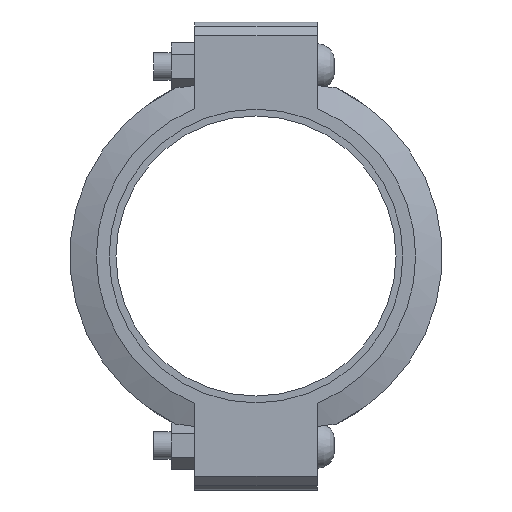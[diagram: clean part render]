
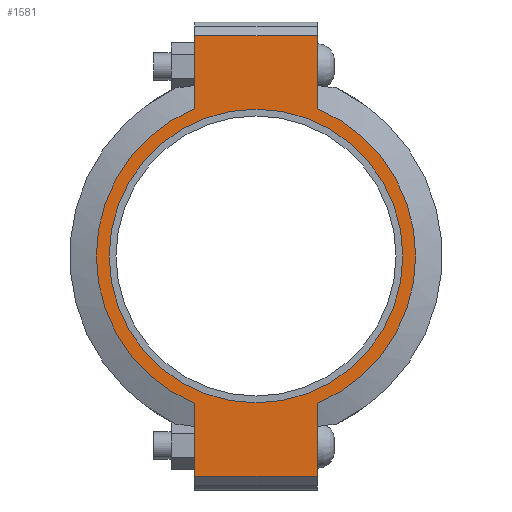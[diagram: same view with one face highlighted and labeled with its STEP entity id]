
A CAD part, left-side view. The second image highlights one B-rep face of the part: STEP entity #1581.
In plain terms, the highlighted planar face has unit normal (-1, 0, 0) as drawn and (0, 0, 1) by its records, which use the part's own axes.
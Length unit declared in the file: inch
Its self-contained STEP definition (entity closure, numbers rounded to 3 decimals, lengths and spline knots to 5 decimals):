
#152=LINE('',#2722,#241);
#163=LINE('',#2773,#252);
#169=LINE('',#2799,#258);
#171=LINE('',#2802,#260);
#172=LINE('',#2807,#261);
#173=LINE('',#2808,#262);
#241=VECTOR('',#2222,0.3937);
#252=VECTOR('',#2253,0.3937);
#258=VECTOR('',#2271,0.3937);
#260=VECTOR('',#2275,0.3937);
#261=VECTOR('',#2280,0.3937);
#262=VECTOR('',#2281,0.3937);
#324=FACE_BOUND('',#501,.T.);
#392=FACE_OUTER_BOUND('',#500,.T.);
#500=EDGE_LOOP('',(#1276,#1277,#1278,#1279,#1280,#1281,#1282,#1283));
#501=EDGE_LOOP('',(#1284));
#583=CIRCLE('',#1800,5.375);
#607=CIRCLE('',#1852,5.845);
#608=CIRCLE('',#1853,5.845);
#679=VERTEX_POINT('',#2548);
#720=VERTEX_POINT('',#2719);
#721=VERTEX_POINT('',#2721);
#738=VERTEX_POINT('',#2768);
#739=VERTEX_POINT('',#2772);
#746=VERTEX_POINT('',#2794);
#747=VERTEX_POINT('',#2798);
#748=VERTEX_POINT('',#2804);
#749=VERTEX_POINT('',#2806);
#843=EDGE_CURVE('',#679,#679,#583,.T.);
#900=EDGE_CURVE('',#721,#720,#152,.T.);
#921=EDGE_CURVE('',#739,#738,#163,.T.);
#932=EDGE_CURVE('',#747,#746,#169,.T.);
#934=EDGE_CURVE('',#747,#720,#171,.T.);
#935=EDGE_CURVE('',#746,#748,#607,.T.);
#936=EDGE_CURVE('',#748,#749,#172,.T.);
#937=EDGE_CURVE('',#739,#749,#173,.T.);
#938=EDGE_CURVE('',#738,#721,#608,.T.);
#1276=ORIENTED_EDGE('',*,*,#934,.F.);
#1277=ORIENTED_EDGE('',*,*,#932,.T.);
#1278=ORIENTED_EDGE('',*,*,#935,.T.);
#1279=ORIENTED_EDGE('',*,*,#936,.T.);
#1280=ORIENTED_EDGE('',*,*,#937,.F.);
#1281=ORIENTED_EDGE('',*,*,#921,.T.);
#1282=ORIENTED_EDGE('',*,*,#938,.T.);
#1283=ORIENTED_EDGE('',*,*,#900,.T.);
#1284=ORIENTED_EDGE('',*,*,#843,.T.);
#1421=PLANE('',#1851);
#1581=ADVANCED_FACE('',(#392,#324),#1421,.T.);
#1800=AXIS2_PLACEMENT_3D('',#2550,#2112,#2113);
#1851=AXIS2_PLACEMENT_3D('',#2803,#2276,#2277);
#1852=AXIS2_PLACEMENT_3D('',#2805,#2278,#2279);
#1853=AXIS2_PLACEMENT_3D('',#2809,#2282,#2283);
#2112=DIRECTION('center_axis',(0.,0.,-1.));
#2113=DIRECTION('ref_axis',(-1.,0.,0.));
#2222=DIRECTION('',(-1.,0.,0.));
#2253=DIRECTION('',(-1.,0.,0.));
#2271=DIRECTION('',(1.,0.,0.));
#2275=DIRECTION('',(0.,1.,0.));
#2276=DIRECTION('center_axis',(0.,0.,1.));
#2277=DIRECTION('ref_axis',(1.,0.,0.));
#2278=DIRECTION('center_axis',(0.,0.,1.));
#2279=DIRECTION('ref_axis',(-1.,0.,0.));
#2280=DIRECTION('',(1.,0.,0.));
#2281=DIRECTION('',(0.,-1.,0.));
#2282=DIRECTION('center_axis',(0.,0.,1.));
#2283=DIRECTION('ref_axis',(-1.,0.,0.));
#2548=CARTESIAN_POINT('',(5.375,0.,1.315));
#2550=CARTESIAN_POINT('Origin',(0.,0.,1.315));
#2719=CARTESIAN_POINT('',(-8.065,2.25,1.315));
#2721=CARTESIAN_POINT('',(-5.39458,2.25,1.315));
#2722=CARTESIAN_POINT('',(8.565,2.25,1.315));
#2768=CARTESIAN_POINT('',(5.39458,2.25,1.315));
#2772=CARTESIAN_POINT('',(8.065,2.25,1.315));
#2773=CARTESIAN_POINT('',(8.565,2.25,1.315));
#2794=CARTESIAN_POINT('',(-5.39458,-2.25,1.315));
#2798=CARTESIAN_POINT('',(-8.065,-2.25,1.315));
#2799=CARTESIAN_POINT('',(-8.565,-2.25,1.315));
#2802=CARTESIAN_POINT('',(-8.065,1.125,1.315));
#2803=CARTESIAN_POINT('Origin',(0.,0.,
1.315));
#2804=CARTESIAN_POINT('',(5.39458,-2.25,1.315));
#2805=CARTESIAN_POINT('Origin',(0.,0.,1.315));
#2806=CARTESIAN_POINT('',(8.065,-2.25,1.315));
#2807=CARTESIAN_POINT('',(-8.565,-2.25,1.315));
#2808=CARTESIAN_POINT('',(8.065,-1.125,1.315));
#2809=CARTESIAN_POINT('Origin',(0.,0.,1.315));
